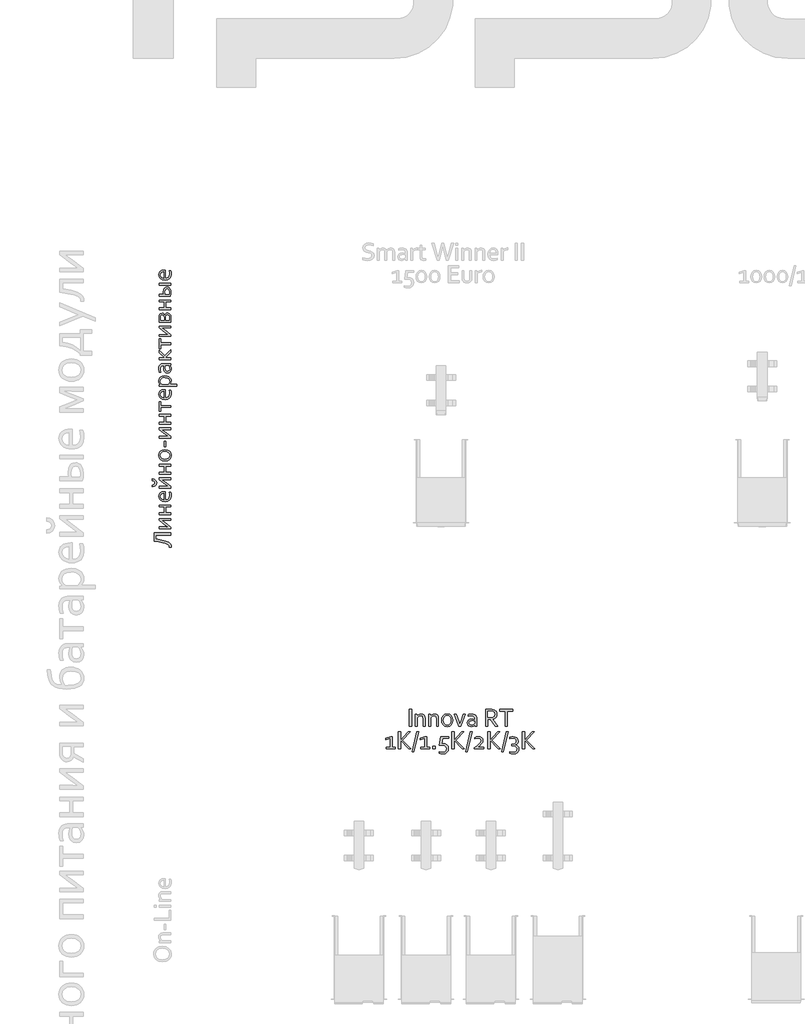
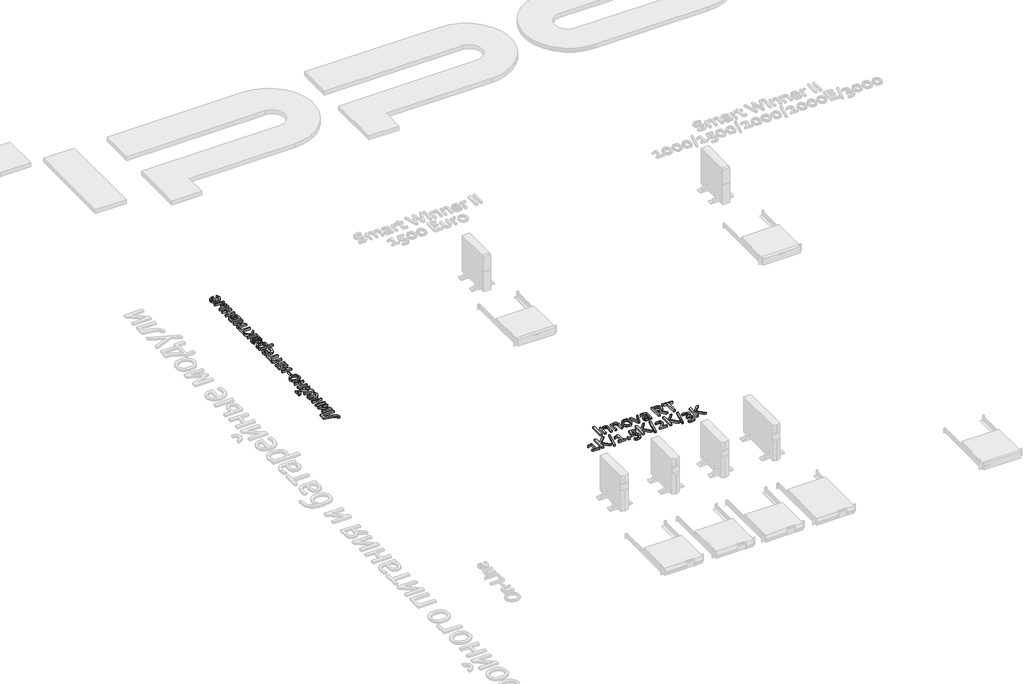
# One storey, part 4 of 14: 2 proxies.
"""IFC4 building model written with IfcOpenShell, lengths in millimetres."""

from ifc_helpers import new_model, si_unit, origin, origin_with_axes, place, context, project, spatial, polyline, outline, extrude, element, save

model = new_model("IFC4")

# Units and contexts
model_context = context("Model", 3, world=origin())
ifc_project = project(units=[si_unit("LENGTHUNIT", "METRE", prefix="MILLI")], contexts=[model_context])

# Site, building, storey
site = spatial("IfcSite", under=ifc_project)
building = spatial("IfcBuilding", under=site)
storey = spatial("IfcBuildingStorey", under=building, Name="Этаж 01", Elevation=0.0)

# Proxies
placement = place(None, origin())
element("IfcBuildingElementProxy", 1, Name="150 мм Corbel", ObjectType="150 мм Corbel", at=placement, inside=storey, context=model_context, shape_type="SweptSolid", body=[
    extrude(outline(polyline([(2392.7938029, -1667.8834575), (2444.7254966, -1678.821051), (2481.8914392, -1689.7148941), (2506.56665, -1700.1712334), (2521.1792749, -1711.3275787), (2528.1793347, -1723.7308097), (2529.9949752, -1737.4903022), (2529.8418489, -1741.209084), (2529.3824699, -1744.2278598), (2512.888579, -1744.2278598), (2513.1948316, -1739.6340706), (2512.7354527, -1733.6840197), (2510.4385581, -1727.4714666), (2504.8603854, -1720.9089106), (2494.4915468, -1714.171353), (2477.8445296, -1707.3900451), (2453.541197, -1700.6087371), (2420.072161, -1693.9368051), (2375.9936594, -1687.483625), (2375.9936594, -1614.683003), (2527.1949512, -1614.683003), (2527.1949512, -1634.2831705), (2392.7938029, -1634.2831705), (2392.7938029, -1667.8834575)])), origin_with_axes(), (0.0, 0.0, 1.0), 20.0),
    extrude(outline(polyline([(2527.1949512, -1562.83881), (2527.1949512, -1578.282692), (2420.7940422, -1578.282692), (2420.7940422, -1561.4825485), (2479.1570408, -1561.4825485), (2502.2134878, -1562.0513033), (2490.5540132, -1553.8699834), (2477.0132725, -1543.9823989), (2420.7940422, -1501.3257845), (2420.7940422, -1485.8819025), (2527.1949512, -1485.8819025), (2527.1949512, -1502.6820461), (2468.8319526, -1502.6820461), (2445.7755056, -1502.1132912), (2457.4349802, -1510.3383615), (2470.9757209, -1520.2696963), (2527.1949512, -1562.83881)])), origin_with_axes(), (0.0, 0.0, 1.0), 20.0),
    extrude(outline(polyline([(2527.1949512, -1382.2810174), (2479.5945446, -1382.2810174), (2479.5945446, -1435.4814719), (2527.1949512, -1435.4814719), (2527.1949512, -1452.2816155), (2420.7940422, -1452.2816155), (2420.7940422, -1435.4814719), (2465.5944249, -1435.4814719), (2465.5944249, -1382.2810174), (2420.7940422, -1382.2810174), (2420.7940422, -1365.4808739), (2527.1949512, -1365.4808739), (2527.1949512, -1382.2810174)])), origin_with_axes(), (0.0, 0.0, 1.0), 20.0),
    extrude(outline(polyline([(2515.9948556, -1279.3363879), (2514.529218, -1263.5643781), (2510.3948077, -1249.3673818), (2524.2199258, -1249.3673818), (2528.4418369, -1263.4987525), (2529.9949752, -1281.5676569), (2527.0855753, -1303.0272153), (2517.6792449, -1320.0461107), (2500.7040999, -1330.852453), (2475.438259, -1334.6806107), (2450.1942934, -1330.6993267), (2432.3441409, -1320.1117362), (2421.5815489, -1304.8866061), (2417.9940183, -1286.9052025), (2420.9252933, -1270.4113116), (2430.1566222, -1257.111198), (2446.409886, -1248.2079969), (2470.2757149, -1244.948594), (2472.5288592, -1244.948594), (2476.7945206, -1245.0798452), (2476.7945206, -1318.799225), (2494.9946761, -1315.7148237), (2507.1135297, -1307.2928767), (2513.8729624, -1294.7802698), (2515.9948556, -1279.3363879)]), holes=[polyline([(2431.9941379, -1287.6489589), (2434.4222836, -1299.1553072), (2441.0285901, -1308.4303864), (2450.8067986, -1314.8616914), (2462.794401, -1317.8804672), (2462.794401, -1261.8799887), (2450.6974227, -1263.5643781), (2440.9192141, -1268.5300455), (2434.3785332, -1276.5801143), (2431.9941379, -1287.6489589)])]), origin_with_axes(), (0.0, 0.0, 1.0), 20.0),
    extrude(outline(polyline([(2384.3937312, -1166.8541768), (2382.9445, -1159.2525494), (2378.5968067, -1153.2478106), (2361.9935398, -1146.8165056), (2361.9935398, -1131.1101214), (2376.059285, -1134.1288972), (2387.6093837, -1141.238333), (2395.4844509, -1152.2196768), (2398.3938508, -1166.9854279), (2395.4844509, -1181.5543024), (2387.6093837, -1192.3606447), (2376.059285, -1199.2513286), (2361.9935398, -1202.1607285), (2361.9935398, -1186.5855954), (2378.5968067, -1180.3730423), (2382.9445, -1174.4995546), (2384.3937312, -1166.8541768)])), origin_with_axes(), (0.0, 0.0, 1.0), 20.0),
    extrude(outline(polyline([(2527.1949512, -1198.8357001), (2527.1949512, -1214.279582), (2420.7940422, -1214.279582), (2420.7940422, -1197.4794385), (2479.1570408, -1197.4794385), (2502.2134878, -1198.0481933), (2490.5540132, -1189.8668734), (2477.0132725, -1179.979289), (2420.7940422, -1137.3226745), (2420.7940422, -1121.8787926), (2527.1949512, -1121.8787926), (2527.1949512, -1138.6789361), (2468.8319526, -1138.6789361), (2445.7755056, -1138.1101812), (2457.4349802, -1146.3352515), (2470.9757209, -1156.2665864), (2527.1949512, -1198.8357001)])), origin_with_axes(), (0.0, 0.0, 1.0), 20.0),
    extrude(outline(polyline([(2527.1949512, -1018.2779074), (2479.5945446, -1018.2779074), (2479.5945446, -1071.4783619), (2527.1949512, -1071.4783619), (2527.1949512, -1088.2785055), (2420.7940422, -1088.2785055), (2420.7940422, -1071.4783619), (2465.5944249, -1071.4783619), (2465.5944249, -1018.2779074), (2420.7940422, -1018.2779074), (2420.7940422, -1001.4777639), (2527.1949512, -1001.4777639), (2527.1949512, -1018.2779074)])), origin_with_axes(), (0.0, 0.0, 1.0), 20.0),
    extrude(outline(polyline([(2474.1257478, -869.8766395), (2496.9415678, -873.442295), (2514.5948436, -883.5486313), (2525.9699408, -899.3643914), (2529.9949752, -920.145819), (2525.9699408, -941.3428751), (2514.5948436, -957.2242608), (2496.9415678, -967.2212212), (2474.1257478, -970.6775007), (2451.1349264, -967.1118453), (2433.4379002, -957.0055089), (2422.0190526, -941.1241232), (2417.9940183, -920.2770701), (2422.0190526, -899.1675148), (2433.4379002, -883.2861291), (2451.1349264, -873.332919), (2474.1257478, -869.8766395)]), holes=[polyline([(2474.1257478, -886.676783), (2456.2537201, -889.1705543), (2443.0192321, -896.148739), (2434.7941618, -906.801955), (2431.9941379, -920.2770701), (2434.7941618, -933.7521852), (2443.0192321, -944.4054013), (2456.2537201, -951.3835859), (2474.1257478, -953.8773572), (2491.8665244, -951.3835859), (2505.0353869, -944.3397757), (2513.1948316, -933.6428093), (2515.9948556, -920.145819), (2513.1948316, -906.7363294), (2505.0353869, -896.148739), (2491.8665244, -889.1705543), (2474.1257478, -886.676783)])]), origin_with_axes(), (0.0, 0.0, 1.0), 20.0),
    extrude(outline(polyline([(2465.5944249, -845.2014287), (2465.5944249, -795.7635063), (2479.5945446, -795.7635063), (2479.5945446, -845.2014287), (2465.5944249, -845.2014287)])), origin_with_axes(), (0.0, 0.0, 1.0), 20.0),
    extrude(outline(polyline([(2527.1949512, -750.8318724), (2527.1949512, -766.2757544), (2420.7940422, -766.2757544), (2420.7940422, -749.4756108), (2479.1570408, -749.4756108), (2502.2134878, -750.0443657), (2490.5540132, -741.8630458), (2477.0132725, -731.9754613), (2420.7940422, -689.3188468), (2420.7940422, -673.8749649), (2527.1949512, -673.8749649), (2527.1949512, -690.6751084), (2468.8319526, -690.6751084), (2445.7755056, -690.1063536), (2457.4349802, -698.3314238), (2470.9757209, -708.2627587), (2527.1949512, -750.8318724)])), origin_with_axes(), (0.0, 0.0, 1.0), 20.0),
    extrude(outline(polyline([(2527.1949512, -570.2740797), (2479.5945446, -570.2740797), (2479.5945446, -623.4745343), (2527.1949512, -623.4745343), (2527.1949512, -640.2746778), (2420.7940422, -640.2746778), (2420.7940422, -623.4745343), (2465.5944249, -623.4745343), (2465.5944249, -570.2740797), (2420.7940422, -570.2740797), (2420.7940422, -553.4739362), (2527.1949512, -553.4739362), (2527.1949512, -570.2740797)])), origin_with_axes(), (0.0, 0.0, 1.0), 20.0),
    extrude(outline(polyline([(2434.7941618, -491.8734099), (2434.7941618, -528.0987194), (2420.7940422, -528.0987194), (2420.7940422, -438.8479569), (2434.7941618, -438.8479569), (2434.7941618, -475.0732664), (2527.1949512, -475.0732664), (2527.1949512, -491.8734099), (2434.7941618, -491.8734099)])), origin_with_axes(), (0.0, 0.0, 1.0), 20.0),
    extrude(outline(polyline([(2515.9948556, -366.528589), (2514.529218, -350.7565792), (2510.3948077, -336.5595829), (2524.2199258, -336.5595829), (2528.4418369, -350.6909537), (2529.9949752, -368.759858), (2527.0855753, -390.2194164), (2517.6792449, -407.2383118), (2500.7040999, -418.0446541), (2475.438259, -421.8728118), (2450.1942934, -417.8915278), (2432.3441409, -407.3039374), (2421.5815489, -392.0788073), (2417.9940183, -374.0974036), (2420.9252933, -357.6035127), (2430.1566222, -344.3033991), (2446.409886, -335.400198), (2470.2757149, -332.1407952), (2472.5288592, -332.1407952), (2476.7945206, -332.2720463), (2476.7945206, -405.9914261), (2494.9946761, -402.9070248), (2507.1135297, -394.4850778), (2513.8729624, -381.9724709), (2515.9948556, -366.528589)]), holes=[polyline([(2431.9941379, -374.84116), (2434.4222836, -386.3475083), (2441.0285901, -395.6225876), (2450.8067986, -402.0538925), (2462.794401, -405.0726683), (2462.794401, -349.0721898), (2450.6974227, -350.7565792), (2440.9192141, -355.7222467), (2434.3785332, -363.7723154), (2431.9941379, -374.84116)])]), origin_with_axes(), (0.0, 0.0, 1.0), 20.0),
    extrude(outline(polyline([(2472.7694862, -209.0709937), (2492.4134041, -211.2366372), (2507.3760319, -216.9241858), (2518.0729983, -225.1930064), (2525.0074326, -235.0368405), (2528.8137151, -245.3838039), (2529.9949752, -255.2713884), (2526.8011979, -271.962156), (2517.3511171, -284.6716396), (2580.3954058, -284.9778922), (2580.3954058, -301.4717831), (2420.7940422, -301.4717831), (2420.7940422, -288.6529236), (2432.8691453, -285.0216426), (2428.5159832, -281.0184834), (2423.9878195, -274.9809318), (2419.7877836, -265.8589789), (2417.9940183, -254.2651298), (2421.012794, -237.3337352), (2430.6378763, -222.8961118), (2447.6130213, -212.855401), (2472.7694862, -209.0709937)]), holes=[polyline([(2472.9007374, -225.8711372), (2455.881842, -227.839904), (2443.0411073, -233.7462045), (2434.8597874, -243.4369123), (2431.9941379, -256.7151508), (2433.5472761, -266.58086), (2437.4629346, -274.6309288), (2442.5598531, -280.8216067), (2447.4380198, -284.9778922), (2503.1322457, -284.9778922), (2512.538576, -272.4215349), (2515.9948556, -257.2839056), (2514.1135895, -246.8275663), (2507.3760319, -236.6337292), (2494.163419, -228.9117882), (2472.9007374, -225.8711372)])]), origin_with_axes(), (0.0, 0.0, 1.0), 20.0),
    extrude(outline(polyline([(2515.4261007, -116.1451997), (2520.7417711, -121.9421243), (2525.4668115, -129.3578126), (2528.7699647, -138.5453911), (2529.9949752, -149.176732), (2527.7418309, -163.1987268), (2521.1136493, -174.1581954), (2510.4604333, -181.3113815), (2496.2196866, -183.8707784), (2482.219567, -181.0270041), (2471.7413525, -173.0644361), (2465.1131708, -160.7487058), (2462.794401, -144.845445), (2464.2819137, -129.5984397), (2467.6506925, -117.107708), (2460.0381275, -116.6702042), (2451.7036813, -117.2389591), (2445.3380019, -119.1639755), (2435.7785452, -128.4390548), (2431.9941379, -145.7204524), (2433.4816506, -160.9237073), (2437.5941857, -175.0769533), (2423.9003187, -175.0769533), (2421.5159233, -168.7550242), (2419.6127821, -161.0768336), (2418.4096468, -152.5673859), (2417.9940183, -143.5766841), (2419.4213742, -128.9421841), (2423.703442, -117.3264598), (2430.3370925, -108.6638858), (2438.8191962, -102.8888365), (2446.7161387, -100.5700667), (2456.1880946, -99.8700607), (2527.1949512, -99.8700607), (2527.1949512, -114.2639337), (2515.4261007, -116.1451997)]), holes=[polyline([(2480.7758047, -116.6702042), (2478.1726574, -128.2859285), (2476.7945206, -143.0516796), (2481.5633114, -160.7049555), (2487.6118006, -165.479215), (2496.2196866, -167.0706348), (2504.9697614, -165.4737462), (2511.1604393, -161.0987088), (2514.7917203, -154.5142776), (2515.9948556, -146.376708), (2514.3542165, -135.7891176), (2510.4385581, -127.0827932), (2505.8885192, -120.6077379), (2502.3447389, -116.6702042), (2480.7758047, -116.6702042)])]), origin_with_axes(), (0.0, 0.0, 1.0), 20.0),
    extrude(outline(polyline([(2472.856987, -49.4149421), (2420.7940422, -2.8317316), (2420.7940422, 19.3497079), (2473.7757448, -28.7319529), (2527.1949512, 22.2809829), (2527.1949512, -0.1629588), (2475.0445057, -49.2508782), (2527.1949512, -49.4696301), (2527.1949512, -66.2697736), (2420.7940422, -66.2697736), (2420.7940422, -49.4696301), (2472.856987, -49.4149421)])), origin_with_axes(), (0.0, 0.0, 1.0), 20.0),
    extrude(outline(polyline([(2434.7941618, 68.1313747), (2434.7941618, 31.9060652), (2420.7940422, 31.9060652), (2420.7940422, 121.1568277), (2434.7941618, 121.1568277), (2434.7941618, 84.9315182), (2527.1949512, 84.9315182), (2527.1949512, 68.1313747), (2434.7941618, 68.1313747)])), origin_with_axes(), (0.0, 0.0, 1.0), 20.0),
    extrude(outline(polyline([(2527.1949512, 159.1759025), (2527.1949512, 143.7320206), (2420.7940422, 143.7320206), (2420.7940422, 160.5321641), (2479.1570408, 160.5321641), (2502.2134878, 159.9634093), (2490.5540132, 168.1447292), (2477.0132725, 178.0323137), (2420.7940422, 220.6889281), (2420.7940422, 236.1328101), (2527.1949512, 236.1328101), (2527.1949512, 219.3326665), (2468.8319526, 219.3326665), (2445.7755056, 219.9014214), (2457.4349802, 211.6763511), (2470.9757209, 201.7450162), (2527.1949512, 159.1759025)])), origin_with_axes(), (0.0, 0.0, 1.0), 20.0),
    extrude(outline(polyline([(2472.1132306, 333.1273888), (2474.2788741, 340.6962034), (2478.7632875, 347.4118858), (2485.9820991, 352.0494254), (2496.0884355, 353.7338148), (2513.2604572, 348.2650181), (2524.4386777, 331.9461287), (2526.4730701, 322.4085472), (2527.1949512, 309.633438), (2527.1949512, 269.7330971), (2420.7940422, 269.7330971), (2420.7940422, 311.9959582), (2421.5377985, 323.9835606), (2423.6378165, 332.7336354), (2433.525401, 346.3400016), (2448.7067807, 350.9337909), (2457.7193577, 349.424403), (2464.3694145, 345.443119), (2469.0069541, 339.7336952), (2472.1132306, 333.1273888)]), holes=[polyline([(2465.5944249, 313.9209747), (2464.544416, 324.1148118), (2459.2506207, 331.6836264), (2450.3255445, 334.1336474), (2442.3957892, 332.2851941), (2437.2441827, 326.7398342), (2434.7941618, 312.433462), (2434.7941618, 286.5332407), (2465.5944249, 286.5332407), (2465.5944249, 313.9209747)]), polyline([(2513.1948316, 309.983441), (2512.6260768, 320.3085292), (2510.9198122, 327.4835905), (2505.166638, 334.789903), (2496.4384385, 336.9336713), (2486.7696059, 334.0023962), (2481.0820573, 325.8648267), (2479.5945446, 314.0522258), (2479.5945446, 286.5332407), (2513.1948316, 286.5332407), (2513.1948316, 309.983441)])]), origin_with_axes(), (0.0, 0.0, 1.0), 20.0),
    extrude(outline(polyline([(2527.1949512, 451.7346521), (2479.5945446, 451.7346521), (2479.5945446, 398.5341976), (2527.1949512, 398.5341976), (2527.1949512, 381.734054), (2420.7940422, 381.734054), (2420.7940422, 398.5341976), (2465.5944249, 398.5341976), (2465.5944249, 451.7346521), (2420.7940422, 451.7346521), (2420.7940422, 468.5347957), (2527.1949512, 468.5347957), (2527.1949512, 451.7346521)])), origin_with_axes(), (0.0, 0.0, 1.0), 20.0),
    extrude(outline(polyline([(2420.7940422, 521.7352502), (2461.4381394, 521.7352502), (2460.3881305, 531.8197113), (2459.9943771, 541.2479169), (2462.553774, 561.9855941), (2469.5319586, 575.8982129), (2479.9007972, 583.7076547), (2492.7196567, 586.1358004), (2508.0104123, 582.4388938), (2518.7730043, 572.1794312), (2525.0949333, 556.5167974), (2527.1949512, 536.4791262), (2526.1449423, 519.1539781), (2523.0824161, 504.9351067), (2420.7940422, 504.9351067), (2420.7940422, 521.7352502)]), holes=[polyline([(2513.1948316, 538.2291411), (2508.0979131, 560.9137099), (2501.7814529, 567.1645446), (2493.0259093, 569.3356569), (2485.4570946, 567.6950179), (2479.4414183, 562.7512256), (2475.4820094, 554.1105268), (2473.9944967, 541.029165), (2474.3444997, 532.4103414), (2475.6132605, 521.7352502), (2511.7073189, 521.7352502), (2512.8448286, 529.4134408), (2513.1948316, 538.2291411)])]), origin_with_axes(), (0.0, 0.0, 1.0), 20.0),
    extrude(outline(polyline([(2527.1949512, 602.935944), (2420.7940422, 602.935944), (2420.7940422, 619.7360875), (2527.1949512, 619.7360875), (2527.1949512, 602.935944)])), origin_with_axes(), (0.0, 0.0, 1.0), 20.0),
    extrude(outline(polyline([(2515.9948556, 703.0805496), (2514.529218, 718.8525593), (2510.3948077, 733.0495556), (2524.2199258, 733.0495556), (2528.4418369, 718.9181849), (2529.9949752, 700.8492805), (2527.0855753, 679.3897222), (2517.6792449, 662.3708268), (2500.7040999, 651.5644844), (2475.438259, 647.7363267), (2450.1942934, 651.7176107), (2432.3441409, 662.3052012), (2421.5815489, 677.5303313), (2417.9940183, 695.5117349), (2420.9252933, 712.0056258), (2430.1566222, 725.3057395), (2446.409886, 734.2089405), (2470.2757149, 737.4683434), (2472.5288592, 737.4683434), (2476.7945206, 737.3370923), (2476.7945206, 663.6177124), (2494.9946761, 666.7021138), (2507.1135297, 675.1240607), (2513.8729624, 687.6366676), (2515.9948556, 703.0805496)]), holes=[polyline([(2431.9941379, 694.7679786), (2434.4222836, 683.2616302), (2441.0285901, 673.986551), (2450.8067986, 667.555246), (2462.794401, 664.5364703), (2462.794401, 720.5369487), (2450.6974227, 718.8525593), (2440.9192141, 713.8868919), (2434.3785332, 705.8368231), (2431.9941379, 694.7679786)])]), origin_with_axes(), (0.0, 0.0, 1.0), 20.0),
])
element("IfcBuildingElementProxy", 2, Name="150 мм Corbel", ObjectType="150 мм Corbel", at=placement, inside=storey, context=model_context, shape_type="SweptSolid", body=[
    extrude(outline(polyline([(4660.8141053, -3344.4864996), (4660.8141053, -3193.2852077), (4680.4142728, -3193.2852077), (4680.4142728, -3344.4864996), (4660.8141053, -3344.4864996)])), origin_with_axes(), (0.0, 0.0, 1.0), 20.0),
    extrude(outline(polyline([(4730.7272027, -3252.8732169), (4737.4428851, -3246.0044082), (4745.2960771, -3240.3824851), (4754.8117834, -3236.619953), (4766.0775047, -3235.2855666), (4779.683871, -3237.2980838), (4790.68709, -3243.7950143), (4798.0809031, -3255.4982393), (4800.8153015, -3273.260891), (4800.8153015, -3344.4864996), (4784.015158, -3344.4864996), (4784.015158, -3275.4046594), (4782.669834, -3263.4444009), (4778.633862, -3255.3888633), (4772.0275555, -3250.8114805), (4762.9712282, -3249.2856862), (4745.4273283, -3254.5138559), (4730.8147034, -3268.8858537), (4730.8147034, -3344.4864996), (4714.0145599, -3344.4864996), (4714.0145599, -3238.0855905), (4727.3584239, -3238.0855905), (4730.7272027, -3252.8732169)])), origin_with_axes(), (0.0, 0.0, 1.0), 20.0),
    extrude(outline(polyline([(4851.1282314, -3252.8732169), (4857.8439137, -3246.0044082), (4865.6971058, -3240.3824851), (4875.2128121, -3236.619953), (4886.4785334, -3235.2855666), (4900.0848996, -3237.2980838), (4911.0881186, -3243.7950143), (4918.4819318, -3255.4982393), (4921.2163302, -3273.260891), (4921.2163302, -3344.4864996), (4904.4161866, -3344.4864996), (4904.4161866, -3275.4046594), (4903.0708626, -3263.4444009), (4899.0348907, -3255.3888633), (4892.4285842, -3250.8114805), (4883.3722568, -3249.2856862), (4865.828357, -3254.5138559), (4851.2157321, -3268.8858537), (4851.2157321, -3344.4864996), (4834.4155886, -3344.4864996), (4834.4155886, -3238.0855905), (4847.7594526, -3238.0855905), (4851.1282314, -3252.8732169)])), origin_with_axes(), (0.0, 0.0, 1.0), 20.0),
    extrude(outline(polyline([(5050.0174306, -3291.4172962), (5046.4517752, -3314.2331161), (5036.3454388, -3331.8863919), (5020.5296787, -3343.2614891), (4999.7482511, -3347.2865235), (4978.551195, -3343.2614891), (4962.6698094, -3331.8863919), (4952.6728489, -3314.2331161), (4949.2165694, -3291.4172962), (4952.7822249, -3268.4264747), (4962.8885612, -3250.7294485), (4978.7699469, -3239.310601), (4999.617, -3235.2855666), (5020.7265554, -3239.310601), (5036.6079411, -3250.7294485), (5046.5611511, -3268.4264747), (5050.0174306, -3291.4172962)]), holes=[polyline([(5033.2172871, -3291.4172962), (5030.7235158, -3273.5452685), (5023.7453312, -3260.3107804), (5013.0921152, -3252.0857101), (4999.617, -3249.2856862), (4986.1418849, -3252.0857101), (4975.4886689, -3260.3107804), (4968.5104843, -3273.5452685), (4966.0167129, -3291.4172962), (4968.5104843, -3309.1580727), (4975.5542944, -3322.3269353), (4986.2512608, -3330.48638), (4999.7482511, -3333.2864039), (5013.1577407, -3330.48638), (5023.7453312, -3322.3269353), (5030.7235158, -3309.1580727), (5033.2172871, -3291.4172962)])]), origin_with_axes(), (0.0, 0.0, 1.0), 20.0),
    extrude(outline(polyline([(5112.9304682, -3326.8988493), (5123.6930601, -3297.2360959), (5145.218244, -3238.0855905), (5162.0183876, -3238.0855905), (5121.9867955, -3344.4864996), (5104.0491423, -3344.4864996), (5064.0175502, -3238.0855905), (5080.8176938, -3238.0855905), (5102.2116266, -3297.2360959), (5112.9304682, -3326.8988493)])), origin_with_axes(), (0.0, 0.0, 1.0), 20.0),
    extrude(outline(polyline([(5246.5441097, -3332.717649), (5240.7471852, -3338.0333194), (5233.3314968, -3342.7583598), (5224.1439183, -3346.061513), (5213.5125775, -3347.2865235), (5199.4905827, -3345.0333793), (5188.5311141, -3338.4051976), (5181.377928, -3327.7519816), (5178.8185311, -3313.5112349), (5181.6623054, -3299.5111153), (5189.6248734, -3289.0329008), (5201.9406036, -3282.4047192), (5217.8438645, -3280.0859494), (5233.0908698, -3281.5734621), (5245.5816015, -3284.9422408), (5246.0191052, -3277.3296758), (5245.4503504, -3268.9952296), (5243.5253339, -3262.6295502), (5234.2502547, -3253.0700935), (5216.968857, -3249.2856862), (5201.7656021, -3250.7731989), (5187.6123562, -3254.885734), (5187.6123562, -3241.1918671), (5193.9342852, -3238.8074717), (5201.6124758, -3236.9043304), (5210.1219235, -3235.7011951), (5219.1126254, -3235.2855666), (5233.7471254, -3236.7129225), (5245.3628496, -3240.9949904), (5254.0254236, -3247.6286408), (5259.800473, -3256.1107445), (5262.1192428, -3264.007687), (5262.8192488, -3273.4796429), (5262.8192488, -3344.4864996), (5248.4253758, -3344.4864996), (5246.5441097, -3332.717649)]), holes=[polyline([(5246.0191052, -3298.067353), (5234.403381, -3295.4642057), (5219.6376298, -3294.086069), (5201.984354, -3298.8548597), (5197.2100945, -3304.9033489), (5195.6186746, -3313.5112349), (5197.2155633, -3322.2613097), (5201.5906006, -3328.4519876), (5208.1750319, -3332.0832686), (5216.3126014, -3333.2864039), (5226.9001919, -3331.6457649), (5235.6065163, -3327.7301064), (5242.0815716, -3323.1800675), (5246.0191052, -3319.6362873), (5246.0191052, -3298.067353)])]), origin_with_axes(), (0.0, 0.0, 1.0), 20.0),
    extrude(outline(polyline([(5363.62011, -3282.8859733), (5363.62011, -3344.4864996), (5344.0199425, -3344.4864996), (5344.0199425, -3193.2852077), (5383.0015256, -3193.2852077), (5399.8016691, -3194.0289641), (5412.4455272, -3196.3914843), (5426.3362708, -3202.2540344), (5436.5082327, -3211.1791106), (5442.742661, -3222.9370236), (5444.8208038, -3237.2980838), (5441.9114039, -3253.8794755), (5433.730084, -3266.5670839), (5421.1081012, -3275.360909), (5404.7892117, -3280.392202), (5450.4208516, -3344.4864996), (5430.8206841, -3344.4864996), (5385.3640458, -3282.8859733), (5363.62011, -3282.8859733)]), holes=[polyline([(5363.62011, -3210.0853513), (5363.62011, -3266.0858297), (5381.295261, -3266.0858297), (5395.339131, -3265.5170749), (5405.7954703, -3263.4608073), (5420.1674681, -3253.9669762), (5425.2206363, -3236.9480808), (5420.38622, -3221.1104455), (5407.3267334, -3212.4916218), (5397.8985279, -3210.6541061), (5383.9202834, -3210.0853513), (5363.62011, -3210.0853513)])]), origin_with_axes(), (0.0, 0.0, 1.0), 20.0),
    extrude(outline(polyline([(5537.2215932, -3344.4864996), (5517.6214258, -3344.4864996), (5517.6214258, -3210.0853513), (5467.5272478, -3210.0853513), (5467.5272478, -3193.2852077), (5587.3157712, -3193.2852077), (5587.3157712, -3210.0853513), (5537.2215932, -3210.0853513), (5537.2215932, -3344.4864996)])), origin_with_axes(), (0.0, 0.0, 1.0), 20.0),
    extrude(outline(polyline([(4490.0126461, -3530.8868106), (4490.0126461, -3452.4861407), (4449.5435503, -3466.4862604), (4449.5435503, -3452.4861407), (4492.2876655, -3438.4860211), (4506.8127896, -3438.4860211), (4506.8127896, -3530.8868106), (4536.1692904, -3530.8868106), (4536.1692904, -3544.8869302), (4454.2248403, -3544.8869302), (4454.2248403, -3530.8868106), (4490.0126461, -3530.8868106)])), origin_with_axes(), (0.0, 0.0, 1.0), 20.0),
    extrude(outline(polyline([(4562.813268, -3544.8869302), (4562.813268, -3393.6856384), (4582.4134355, -3393.6856384), (4582.4134355, -3468.3675264), (4649.6140097, -3393.6856384), (4669.2141771, -3393.6856384), (4599.2573294, -3468.9362813), (4674.814225, -3544.8869302), (4655.2140575, -3544.8869302), (4582.6321874, -3470.8612977), (4582.6321874, -3544.8869302), (4562.813268, -3544.8869302)])), origin_with_axes(), (0.0, 0.0, 1.0), 20.0),
    extrude(outline(polyline([(4685.2268139, -3572.8871694), (4727.839678, -3393.6856384), (4744.4210697, -3393.6856384), (4701.8082056, -3572.8871694), (4685.2268139, -3572.8871694)])), origin_with_axes(), (0.0, 0.0, 1.0), 20.0),
    extrude(outline(polyline([(4798.0152776, -3530.8868106), (4798.0152776, -3452.4861407), (4757.5461818, -3466.4862604), (4757.5461818, -3452.4861407), (4800.290297, -3438.4860211), (4814.8154211, -3438.4860211), (4814.8154211, -3530.8868106), (4844.1719219, -3530.8868106), (4844.1719219, -3544.8869302), (4762.2274718, -3544.8869302), (4762.2274718, -3530.8868106), (4798.0152776, -3530.8868106)])), origin_with_axes(), (0.0, 0.0, 1.0), 20.0),
    extrude(outline(polyline([(4870.8158996, -3544.8869302), (4870.8158996, -3522.4867388), (4893.216091, -3522.4867388), (4893.216091, -3544.8869302), (4870.8158996, -3544.8869302)])), origin_with_axes(), (0.0, 0.0, 1.0), 20.0),
    extrude(outline(polyline([(5010.8170957, -3544.7556791), (5007.338941, -3563.8089669), (4997.1451039, -3578.924721), (4980.2137092, -3588.8998062), (4957.0041359, -3592.4873369), (4940.7508721, -3590.9998242), (4926.8601284, -3586.4497853), (4926.8601284, -3572.8871694), (4942.5446374, -3577.3278324), (4956.2166292, -3578.4872173), (4972.8198961, -3575.8621948), (4984.5887466, -3568.7090087), (4991.654432, -3558.1651686), (4994.0169522, -3545.5431858), (4991.5231809, -3531.6086917), (4983.7137391, -3521.8304832), (4970.0636225, -3516.0116835), (4949.9603258, -3514.086667), (4930.1851568, -3515.2241768), (4940.8164976, -3438.4860211), (5011.8671047, -3438.4860211), (5011.8671047, -3452.4861407), (4957.6166412, -3452.4861407), (4951.3603377, -3500.3052993), (4957.6166412, -3500.0865474), (4980.3668356, -3503.1053232), (4997.0576032, -3511.8335228), (5007.3170658, -3525.8336424), (5010.8170957, -3544.7556791)])), origin_with_axes(), (0.0, 0.0, 1.0), 20.0),
    extrude(outline(polyline([(5041.6173589, -3544.8869302), (5041.6173589, -3393.6856384), (5061.2175263, -3393.6856384), (5061.2175263, -3468.3675264), (5128.4181005, -3393.6856384), (5148.0182679, -3393.6856384), (5078.0614202, -3468.9362813), (5153.6183158, -3544.8869302), (5134.0181483, -3544.8869302), (5061.4362782, -3470.8612977), (5061.4362782, -3544.8869302), (5041.6173589, -3544.8869302)])), origin_with_axes(), (0.0, 0.0, 1.0), 20.0),
    extrude(outline(polyline([(5164.0309047, -3572.8871694), (5206.6437688, -3393.6856384), (5223.2251605, -3393.6856384), (5180.6122964, -3572.8871694), (5164.0309047, -3572.8871694)])), origin_with_axes(), (0.0, 0.0, 1.0), 20.0),
    extrude(outline(polyline([(5271.0005687, -3531.3243143), (5294.1882668, -3530.8868106), (5327.8760546, -3530.8868106), (5327.8760546, -3544.8869302), (5242.6065761, -3544.8869302), (5242.6065761, -3535.3493487), (5266.3849042, -3517.5648218), (5285.1538146, -3501.7490616), (5297.5351704, -3487.0051857), (5302.0195837, -3472.5675623), (5300.450039, -3463.9596763), (5295.7414051, -3457.6486848), (5288.0905584, -3453.7767768), (5277.6943759, -3452.4861407), (5260.7192308, -3454.0830294), (5243.7440858, -3458.0861886), (5243.7440858, -3446.0110854), (5259.4942204, -3440.7391654), (5280.0568961, -3438.4860211), (5296.200784, -3440.7172902), (5308.4290135, -3447.2142207), (5316.1072041, -3457.7580608), (5318.8197272, -3472.2613097), (5315.275947, -3488.6239495), (5305.4758632, -3503.2365743), (5290.2507331, -3517.0616925), (5271.0005687, -3531.3243143)])), origin_with_axes(), (0.0, 0.0, 1.0), 20.0),
    extrude(outline(polyline([(5363.62011, -3544.8869302), (5363.62011, -3393.6856384), (5383.2202775, -3393.6856384), (5383.2202775, -3468.3675264), (5450.4208516, -3393.6856384), (5470.0210191, -3393.6856384), (5400.0641714, -3468.9362813), (5475.6210669, -3544.8869302), (5456.0208995, -3544.8869302), (5383.4390293, -3470.8612977), (5383.4390293, -3544.8869302), (5363.62011, -3544.8869302)])), origin_with_axes(), (0.0, 0.0, 1.0), 20.0),
    extrude(outline(polyline([(5486.0336559, -3572.8871694), (5528.64652, -3393.6856384), (5545.2279116, -3393.6856384), (5502.6150475, -3572.8871694), (5486.0336559, -3572.8871694)])), origin_with_axes(), (0.0, 0.0, 1.0), 20.0),
    extrude(outline(polyline([(5609.5409611, -3511.6803965), (5620.9160583, -3514.8085482), (5630.5411405, -3521.5242306), (5637.7818274, -3532.2649474), (5640.8224784, -3547.2057), (5637.6068259, -3565.8871096), (5628.0692444, -3580.1934818), (5611.8378557, -3589.2935596), (5588.934535, -3592.4873369), (5571.5875118, -3590.9560738), (5556.9530118, -3586.4497853), (5556.9530118, -3572.8871694), (5572.9000231, -3577.1747061), (5587.6657742, -3578.4872173), (5604.9471719, -3575.9059452), (5616.1035172, -3569.1027621), (5622.1629439, -3559.3245535), (5624.0223348, -3547.7307045), (5621.5668451, -3534.9282514), (5614.2003759, -3526.2711461), (5602.4369942, -3521.3328227), (5586.7907667, -3519.6867149), (5574.8906651, -3519.6867149), (5574.8906651, -3505.6865953), (5581.8469745, -3505.6865953), (5598.406491, -3503.4990766), (5609.7815882, -3497.461525), (5616.3441442, -3488.3833224), (5618.422287, -3477.1176012), (5616.1253924, -3466.092507), (5609.8472137, -3458.4361916), (5600.4846337, -3453.9517783), (5588.934535, -3452.4861407), (5573.5562787, -3453.9955286), (5558.3092734, -3458.0861886), (5558.3092734, -3444.6110735), (5575.8531733, -3439.8204075), (5590.5970493, -3438.4860211), (5610.00034, -3441.3516706), (5623.9567093, -3449.3798642), (5632.3130307, -3461.5862185), (5635.2224305, -3477.1176012), (5633.8661689, -3488.0114443), (5629.425506, -3497.811528), (5621.462938, -3505.8397216), (5609.5409611, -3511.6803965)])), origin_with_axes(), (0.0, 0.0, 1.0), 20.0),
    extrude(outline(polyline([(5671.6227415, -3544.8869302), (5671.6227415, -3393.6856384), (5691.222909, -3393.6856384), (5691.222909, -3468.3675264), (5758.4234831, -3393.6856384), (5778.0236506, -3393.6856384), (5708.0668029, -3468.9362813), (5783.6236984, -3544.8869302), (5764.023531, -3544.8869302), (5691.4416608, -3470.8612977), (5691.4416608, -3544.8869302), (5671.6227415, -3544.8869302)])), origin_with_axes(), (0.0, 0.0, 1.0), 20.0),
])

save(model, "model.ifc")
